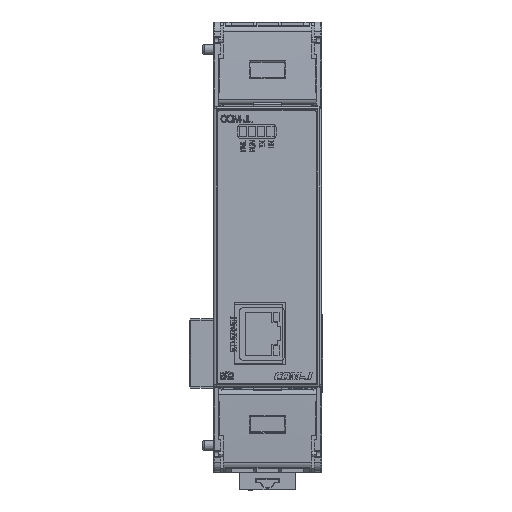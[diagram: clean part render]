
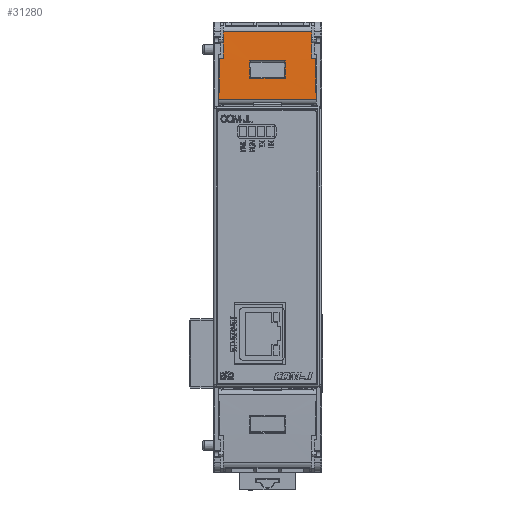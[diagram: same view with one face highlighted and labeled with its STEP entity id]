
A CAD part, top view. The second image highlights one B-rep face of the part: STEP entity #31280.
In plain terms, the highlighted cylindrical face has radius 700 mm (diameter 1400 mm), a partial arc.
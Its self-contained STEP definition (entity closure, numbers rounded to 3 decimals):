
#4897 = VERTEX_POINT ( 'NONE', #177401 ) ;
#6020 = EDGE_CURVE ( 'NONE', #166419, #50272, #7891, .T. ) ;
#7891 = LINE ( 'NONE', #149266, #31510 ) ;
#8725 = CARTESIAN_POINT ( 'NONE',  ( 13.45, 24.24, -698.079 ) ) ;
#9680 = DIRECTION ( 'NONE',  ( 0., 0., -1. ) ) ;
#10052 = EDGE_CURVE ( 'NONE', #78457, #87541, #66839, .T. ) ;
#10652 = EDGE_CURVE ( 'NONE', #51564, #4897, #161513, .T. ) ;
#10959 = ORIENTED_EDGE ( 'NONE', *, *, #68713, .F. ) ;
#16785 = EDGE_CURVE ( 'NONE', #4897, #20143, #50319, .T. ) ;
#19741 = CIRCLE ( 'NONE', #57721, 700. ) ;
#20143 = VERTEX_POINT ( 'NONE', #23014 ) ;
#21999 = EDGE_CURVE ( 'NONE', #129640, #65556, #68103, .T. ) ;
#22627 = CARTESIAN_POINT ( 'NONE',  ( 13.65, -1.916, 1.432 ) ) ;
#22916 = CARTESIAN_POINT ( 'NONE',  ( -13.45, 24.24, -698.079 ) ) ;
#23014 = CARTESIAN_POINT ( 'NONE',  ( 4.9, -10.665, 1.05 ) ) ;
#23603 = ORIENTED_EDGE ( 'NONE', *, *, #94531, .T. ) ;
#25270 = LINE ( 'NONE', #91171, #128551 ) ;
#25523 = EDGE_CURVE ( 'NONE', #25952, #51564, #163815, .T. ) ;
#25952 = VERTEX_POINT ( 'NONE', #155765 ) ;
#26292 = AXIS2_PLACEMENT_3D ( 'NONE', #127935, #43807, #141227 ) ;
#26655 = CARTESIAN_POINT ( 'NONE',  ( 13.65, 24.24, -698.079 ) ) ;
#27117 = DIRECTION ( 'NONE',  ( 1., 0., 0. ) ) ;
#28706 = CARTESIAN_POINT ( 'NONE',  ( 12.3, -11.35, 1.015 ) ) ;
#31170 = CARTESIAN_POINT ( 'NONE',  ( 13.45, -11.35, 1.015 ) ) ;
#31243 = ORIENTED_EDGE ( 'NONE', *, *, #10052, .F. ) ;
#31280 = ADVANCED_FACE ( 'NONE', ( #158350, #112962 ), #85024, .T. ) ;
#31334 = EDGE_CURVE ( 'NONE', #78457, #158476, #145343, .T. ) ;
#31510 = VECTOR ( 'NONE', #134797, 1000. ) ;
#31551 = DIRECTION ( 'NONE',  ( 1., 0., 0. ) ) ;
#31976 = ORIENTED_EDGE ( 'NONE', *, *, #38043, .T. ) ;
#32291 = LINE ( 'NONE', #160856, #92471 ) ;
#34985 = EDGE_LOOP ( 'NONE', ( #87131, #87951, #23603, #77250, #163676, #84110, #119078, #119819, #31243, #115183, #10959, #140615 ) ) ;
#35269 = VECTOR ( 'NONE', #49109, 1000. ) ;
#35999 = VERTEX_POINT ( 'NONE', #90956 ) ;
#38043 = EDGE_CURVE ( 'NONE', #20143, #25952, #54391, .T. ) ;
#39117 = CARTESIAN_POINT ( 'NONE',  ( -12.3, -11.35, 1.015 ) ) ;
#39926 = DIRECTION ( 'NONE',  ( 0., 0., -1. ) ) ;
#40436 = EDGE_CURVE ( 'NONE', #67092, #96141, #32291, .T. ) ;
#42095 = DIRECTION ( 'NONE',  ( -1., 0., 0. ) ) ;
#43807 = DIRECTION ( 'NONE',  ( 1., 0., 0. ) ) ;
#45942 = DIRECTION ( 'NONE',  ( 0., 0., -1. ) ) ;
#46352 = CARTESIAN_POINT ( 'NONE',  ( -4.9, 24.24, -698.079 ) ) ;
#47129 = DIRECTION ( 'NONE',  ( 1., 0., 0. ) ) ;
#49109 = DIRECTION ( 'NONE',  ( -1., 0., 0. ) ) ;
#50272 = VERTEX_POINT ( 'NONE', #164107 ) ;
#50319 = CIRCLE ( 'NONE', #62295, 700. ) ;
#51564 = VERTEX_POINT ( 'NONE', #173192 ) ;
#53878 = EDGE_CURVE ( 'NONE', #175575, #87541, #25270, .T. ) ;
#54203 = VERTEX_POINT ( 'NONE', #166981 ) ;
#54303 = DIRECTION ( 'NONE',  ( 0., 0., 1. ) ) ;
#54391 = LINE ( 'NONE', #103669, #73638 ) ;
#57721 = AXIS2_PLACEMENT_3D ( 'NONE', #113876, #31551, #98258 ) ;
#61016 = CIRCLE ( 'NONE', #26292, 700. ) ;
#61498 = CARTESIAN_POINT ( 'NONE',  ( 4.9, 24.24, -698.079 ) ) ;
#61693 = VECTOR ( 'NONE', #104309, 1000. ) ;
#62295 = AXIS2_PLACEMENT_3D ( 'NONE', #61498, #47129, #45942 ) ;
#63230 = AXIS2_PLACEMENT_3D ( 'NONE', #46352, #128090, #142564 ) ;
#63408 = DIRECTION ( 'NONE',  ( 1., 0., 0. ) ) ;
#65556 = VERTEX_POINT ( 'NONE', #170319 ) ;
#66839 = CIRCLE ( 'NONE', #175736, 700. ) ;
#67092 = VERTEX_POINT ( 'NONE', #39117 ) ;
#67411 = CARTESIAN_POINT ( 'NONE',  ( -13.65, 24.24, -698.079 ) ) ;
#68103 = LINE ( 'NONE', #22627, #61693 ) ;
#68713 = EDGE_CURVE ( 'NONE', #54203, #158476, #19741, .T. ) ;
#69254 = DIRECTION ( 'NONE',  ( -1., 0., 0. ) ) ;
#70862 = CARTESIAN_POINT ( 'NONE',  ( -12.3, 24.24, -698.079 ) ) ;
#71078 = AXIS2_PLACEMENT_3D ( 'NONE', #22916, #174470, #9680 ) ;
#73638 = VECTOR ( 'NONE', #158576, 1000. ) ;
#74051 = CARTESIAN_POINT ( 'NONE',  ( -13.65, -1.916, 1.432 ) ) ;
#76393 = AXIS2_PLACEMENT_3D ( 'NONE', #26655, #69254, #54303 ) ;
#76784 = CARTESIAN_POINT ( 'NONE',  ( 12.3, -18.74, 0.6 ) ) ;
#77250 = ORIENTED_EDGE ( 'NONE', *, *, #40436, .F. ) ;
#78457 = VERTEX_POINT ( 'NONE', #165869 ) ;
#82370 = DIRECTION ( 'NONE',  ( 0., 0., 1. ) ) ;
#84110 = ORIENTED_EDGE ( 'NONE', *, *, #6020, .F. ) ;
#85024 = CYLINDRICAL_SURFACE ( 'NONE', #76393, 700. ) ;
#86658 = CIRCLE ( 'NONE', #91306, 700. ) ;
#87131 = ORIENTED_EDGE ( 'NONE', *, *, #149191, .T. ) ;
#87541 = VERTEX_POINT ( 'NONE', #31170 ) ;
#87951 = ORIENTED_EDGE ( 'NONE', *, *, #21999, .T. ) ;
#90956 = CARTESIAN_POINT ( 'NONE',  ( -13.65, -0.052, 1.499 ) ) ;
#91171 = CARTESIAN_POINT ( 'NONE',  ( 13.65, -11.35, 1.015 ) ) ;
#91306 = AXIS2_PLACEMENT_3D ( 'NONE', #70862, #42095, #82370 ) ;
#92471 = VECTOR ( 'NONE', #104222, 1000. ) ;
#94219 = CARTESIAN_POINT ( 'NONE',  ( -13.45, -11.35, 1.015 ) ) ;
#94531 = EDGE_CURVE ( 'NONE', #65556, #96141, #124626, .T. ) ;
#95569 = CARTESIAN_POINT ( 'NONE',  ( 13.65, -5.818, 1.275 ) ) ;
#96141 = VERTEX_POINT ( 'NONE', #94219 ) ;
#98258 = DIRECTION ( 'NONE',  ( 0., 0., -1. ) ) ;
#99055 = VECTOR ( 'NONE', #27117, 1000. ) ;
#101760 = EDGE_CURVE ( 'NONE', #50272, #67092, #86658, .T. ) ;
#103669 = CARTESIAN_POINT ( 'NONE',  ( 13.65, -10.665, 1.05 ) ) ;
#104222 = DIRECTION ( 'NONE',  ( -1., 0., 0. ) ) ;
#104309 = DIRECTION ( 'NONE',  ( 1., 0., 0. ) ) ;
#105201 = ORIENTED_EDGE ( 'NONE', *, *, #10652, .T. ) ;
#109470 = ORIENTED_EDGE ( 'NONE', *, *, #25523, .T. ) ;
#109691 = CIRCLE ( 'NONE', #175714, 700. ) ;
#110651 = LINE ( 'NONE', #172422, #35269 ) ;
#112962 = FACE_OUTER_BOUND ( 'NONE', #34985, .T. ) ;
#113876 = CARTESIAN_POINT ( 'NONE',  ( 13.65, 24.24, -698.079 ) ) ;
#115183 = ORIENTED_EDGE ( 'NONE', *, *, #31334, .T. ) ;
#119078 = ORIENTED_EDGE ( 'NONE', *, *, #153566, .F. ) ;
#119819 = ORIENTED_EDGE ( 'NONE', *, *, #53878, .T. ) ;
#124626 = CIRCLE ( 'NONE', #71078, 700. ) ;
#125553 = EDGE_CURVE ( 'NONE', #54203, #35999, #110651, .T. ) ;
#127935 = CARTESIAN_POINT ( 'NONE',  ( 12.3, 24.24, -698.079 ) ) ;
#128090 = DIRECTION ( 'NONE',  ( -1., 0., 0. ) ) ;
#128551 = VECTOR ( 'NONE', #174281, 1000. ) ;
#129640 = VERTEX_POINT ( 'NONE', #74051 ) ;
#134797 = DIRECTION ( 'NONE',  ( -1., 0., 0. ) ) ;
#140615 = ORIENTED_EDGE ( 'NONE', *, *, #125553, .T. ) ;
#141227 = DIRECTION ( 'NONE',  ( 0., 0., -1. ) ) ;
#142564 = DIRECTION ( 'NONE',  ( 0., 0., -1. ) ) ;
#145343 = LINE ( 'NONE', #154111, #177697 ) ;
#146423 = CARTESIAN_POINT ( 'NONE',  ( 13.65, -1.916, 1.432 ) ) ;
#149191 = EDGE_CURVE ( 'NONE', #35999, #129640, #109691, .T. ) ;
#149266 = CARTESIAN_POINT ( 'NONE',  ( 13.65, -18.74, 0.6 ) ) ;
#152952 = DIRECTION ( 'NONE',  ( 1., 0., 0. ) ) ;
#153566 = EDGE_CURVE ( 'NONE', #175575, #166419, #61016, .T. ) ;
#154111 = CARTESIAN_POINT ( 'NONE',  ( 13.65, -1.916, 1.432 ) ) ;
#155765 = CARTESIAN_POINT ( 'NONE',  ( -4.9, -10.665, 1.05 ) ) ;
#158350 = FACE_BOUND ( 'NONE', #170780, .T. ) ;
#158476 = VERTEX_POINT ( 'NONE', #146423 ) ;
#158576 = DIRECTION ( 'NONE',  ( -1., 0., 0. ) ) ;
#160856 = CARTESIAN_POINT ( 'NONE',  ( 13.65, -11.35, 1.015 ) ) ;
#161513 = LINE ( 'NONE', #95569, #99055 ) ;
#163676 = ORIENTED_EDGE ( 'NONE', *, *, #101760, .F. ) ;
#163815 = CIRCLE ( 'NONE', #63230, 700. ) ;
#164107 = CARTESIAN_POINT ( 'NONE',  ( -12.3, -18.74, 0.6 ) ) ;
#164939 = DIRECTION ( 'NONE',  ( 1., 0., 0. ) ) ;
#165869 = CARTESIAN_POINT ( 'NONE',  ( 13.45, -1.916, 1.432 ) ) ;
#166419 = VERTEX_POINT ( 'NONE', #76784 ) ;
#166981 = CARTESIAN_POINT ( 'NONE',  ( 13.65, -0.052, 1.499 ) ) ;
#170319 = CARTESIAN_POINT ( 'NONE',  ( -13.45, -1.916, 1.432 ) ) ;
#170780 = EDGE_LOOP ( 'NONE', ( #31976, #109470, #105201, #172302 ) ) ;
#172302 = ORIENTED_EDGE ( 'NONE', *, *, #16785, .T. ) ;
#172422 = CARTESIAN_POINT ( 'NONE',  ( 13.65, -0.052, 1.499 ) ) ;
#173192 = CARTESIAN_POINT ( 'NONE',  ( -4.9, -5.818, 1.275 ) ) ;
#174281 = DIRECTION ( 'NONE',  ( 1., 0., 0. ) ) ;
#174470 = DIRECTION ( 'NONE',  ( 1., 0., 0. ) ) ;
#175575 = VERTEX_POINT ( 'NONE', #28706 ) ;
#175714 = AXIS2_PLACEMENT_3D ( 'NONE', #67411, #164939, #177606 ) ;
#175736 = AXIS2_PLACEMENT_3D ( 'NONE', #8725, #63408, #39926 ) ;
#177401 = CARTESIAN_POINT ( 'NONE',  ( 4.9, -5.818, 1.275 ) ) ;
#177606 = DIRECTION ( 'NONE',  ( 0., 0., -1. ) ) ;
#177697 = VECTOR ( 'NONE', #152952, 1000. ) ;
